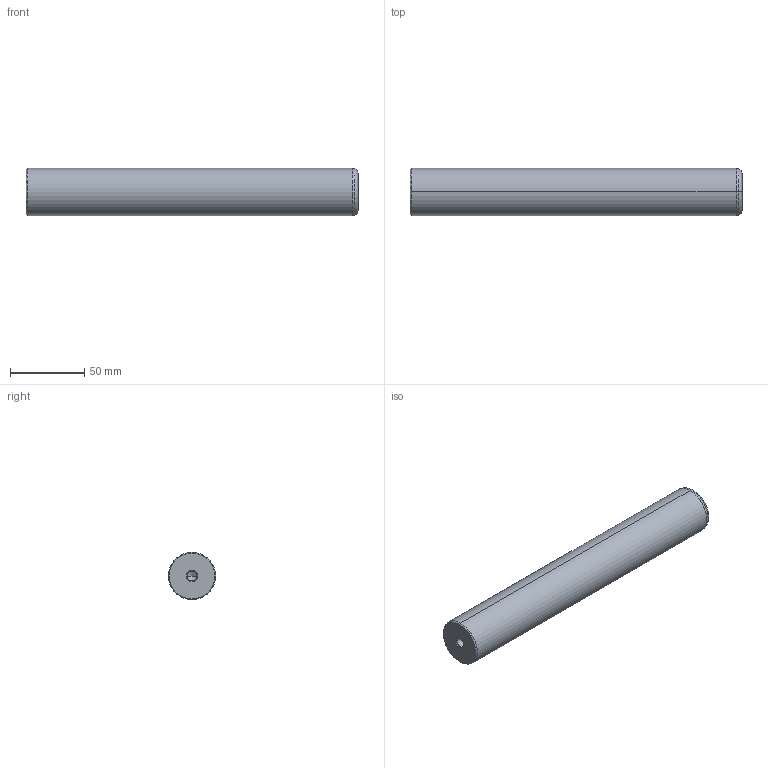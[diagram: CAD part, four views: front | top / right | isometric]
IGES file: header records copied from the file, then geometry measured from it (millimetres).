
Start section: START RECORD GO HERE.
Global section: file name: 720-32x224.igs; native system: DASSAULT SYSTEMES CATIA V5 R20 - www.3ds.com; preprocessor: CATIA Version 5 Release 20 ; author: Utente; organization: NB04-ASUS; date: 20210101.131659; units: millimetre
Bounding box: 224 x 32 x 32 mm (x, y, z)
Surface area: 24911.7 mm2 (no closed solid volume)
Topology: 0 solids, 0 shells, 22 faces, 108 edges, 104 vertices
Faces by surface type: revolution 20, plane 2
